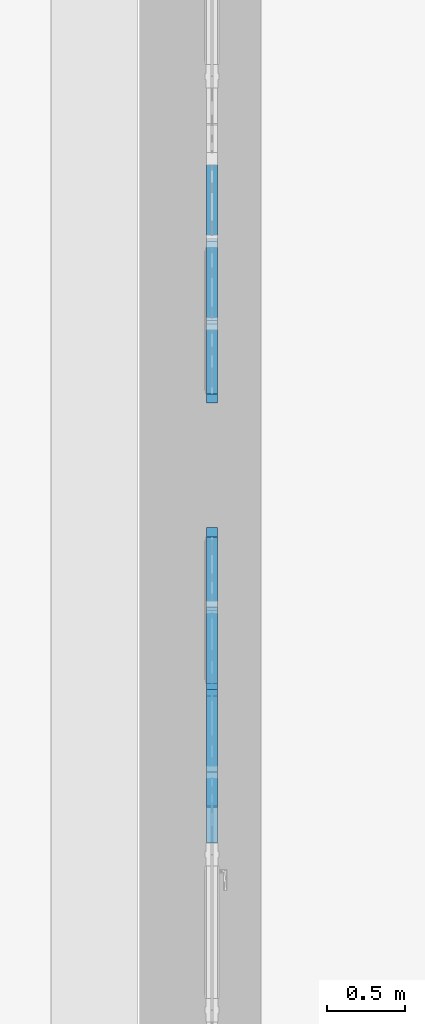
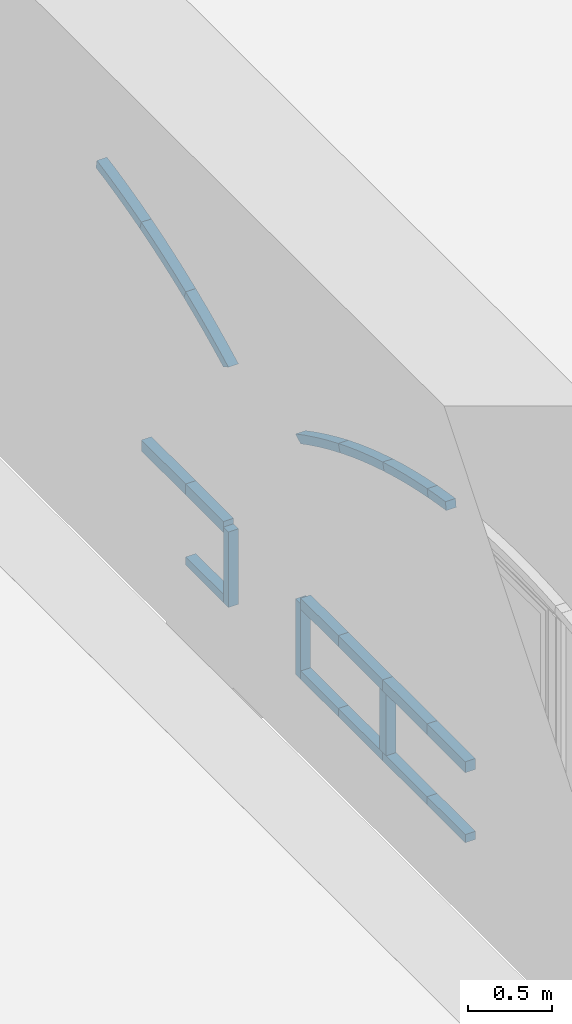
# One storey, part 35 of 88: 21 members, 2 elements without a shape of their own.
"""IFC2X3 building model written with IfcOpenShell, lengths in millimetres."""

from ifc_helpers import new_model, entity, si_unit, converted_unit, derived_unit, direction, frame, frame_2d, origin, place, context, subcontext, project, spatial, polyline, circle_curve, parameter, trimmed, segment, composite_curve, rectangle, outline, extrude, source, transform, mapped, material, type_object, type_shapes, element, aggregate, save


model = new_model("IFC2X3")

# Units and contexts
model_context = context("Model", 3, precision=0.01, world=origin(), true_north=direction((6.123031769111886e-17, 1.0)))
body_context = subcontext(model_context, "Body", "Model", "MODEL_VIEW")
ifc_project = project(units=[si_unit("LENGTHUNIT", "METRE", prefix="MILLI"), si_unit("AREAUNIT", "SQUARE_METRE"), si_unit("VOLUMEUNIT", "CUBIC_METRE"), converted_unit("PLANEANGLEUNIT", "DEGREE", entity("IfcPlaneAngleMeasure", 0.017453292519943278), si_unit("PLANEANGLEUNIT", "RADIAN"), dimensions=[0, 0, 0, 0, 0, 0, 0]), si_unit("MASSUNIT", "GRAM", prefix="KILO"), derived_unit("MASSDENSITYUNIT", [(si_unit("MASSUNIT", "GRAM", prefix="KILO"), 1), (si_unit("LENGTHUNIT", "METRE"), -3)]), derived_unit("IONCONCENTRATIONUNIT", [(si_unit("MASSUNIT", "GRAM", prefix="KILO"), 1), (si_unit("LENGTHUNIT", "METRE"), -3)]), derived_unit("MOMENTOFINERTIAUNIT", [(si_unit("LENGTHUNIT", "METRE"), 4)]), si_unit("TIMEUNIT", "SECOND"), si_unit("FREQUENCYUNIT", "HERTZ"), si_unit("THERMODYNAMICTEMPERATUREUNIT", "DEGREE_CELSIUS"), derived_unit("THERMALTRANSMITTANCEUNIT", [(si_unit("MASSUNIT", "GRAM", prefix="KILO"), 1), (si_unit("THERMODYNAMICTEMPERATUREUNIT", "KELVIN"), -1), (si_unit("TIMEUNIT", "SECOND"), -3)]), derived_unit("THERMALCONDUCTANCEUNIT", [(si_unit("MASSUNIT", "GRAM", prefix="KILO"), 1), (si_unit("THERMODYNAMICTEMPERATUREUNIT", "KELVIN"), -1), (si_unit("TIMEUNIT", "SECOND"), -3), (si_unit("LENGTHUNIT", "METRE"), 1)]), derived_unit("VOLUMETRICFLOWRATEUNIT", [(si_unit("LENGTHUNIT", "METRE", prefix="DECI"), 3), (si_unit("TIMEUNIT", "SECOND"), -1)]), derived_unit("MASSFLOWRATEUNIT", [(si_unit("MASSUNIT", "GRAM", prefix="KILO"), 1), (si_unit("TIMEUNIT", "SECOND"), -1)]), derived_unit("ROTATIONALFREQUENCYUNIT", [(si_unit("TIMEUNIT", "SECOND"), -1)]), si_unit("ELECTRICCURRENTUNIT", "AMPERE"), si_unit("ELECTRICVOLTAGEUNIT", "VOLT"), si_unit("POWERUNIT", "WATT"), si_unit("FORCEUNIT", "NEWTON", prefix="KILO"), si_unit("ILLUMINANCEUNIT", "LUX"), si_unit("LUMINOUSFLUXUNIT", "LUMEN"), si_unit("LUMINOUSINTENSITYUNIT", "CANDELA"), si_unit("ENERGYUNIT", "JOULE"), derived_unit("USERDEFINED", [(si_unit("MASSUNIT", "GRAM", prefix="KILO"), -1), (si_unit("LENGTHUNIT", "METRE"), -2), (si_unit("TIMEUNIT", "SECOND"), 3), (si_unit("LUMINOUSFLUXUNIT", "LUMEN"), 1)]), derived_unit("USERDEFINED", [(si_unit("MASSUNIT", "GRAM", prefix="KILO"), 1), (si_unit("TIMEUNIT", "SECOND"), -3), (si_unit("LENGTHUNIT", "METRE"), 3), (si_unit("ELECTRICCURRENTUNIT", "AMPERE"), -2)]), derived_unit("SOUNDPOWERUNIT", [(si_unit("MASSUNIT", "GRAM", prefix="KILO"), 1), (si_unit("TIMEUNIT", "SECOND"), -3), (si_unit("LENGTHUNIT", "METRE"), 2)]), derived_unit("SOUNDPRESSUREUNIT", [(si_unit("MASSUNIT", "GRAM", prefix="KILO"), 1), (si_unit("LENGTHUNIT", "METRE"), -1), (si_unit("TIMEUNIT", "SECOND"), -2)]), derived_unit("LINEARVELOCITYUNIT", [(si_unit("LENGTHUNIT", "METRE"), 1), (si_unit("TIMEUNIT", "SECOND"), -1)]), si_unit("PRESSUREUNIT", "PASCAL"), derived_unit("USERDEFINED", [(si_unit("MASSUNIT", "GRAM", prefix="KILO"), 1), (si_unit("LENGTHUNIT", "METRE"), -2), (si_unit("TIMEUNIT", "SECOND"), -2)]), derived_unit("LINEARFORCEUNIT", [(si_unit("MASSUNIT", "GRAM", prefix="KILO"), 1), (si_unit("TIMEUNIT", "SECOND"), -2)]), derived_unit("PLANARFORCEUNIT", [(si_unit("MASSUNIT", "GRAM", prefix="KILO"), 1), (si_unit("LENGTHUNIT", "METRE"), -1), (si_unit("TIMEUNIT", "SECOND"), -2)]), derived_unit("SPECIFICHEATCAPACITYUNIT", [(si_unit("THERMODYNAMICTEMPERATUREUNIT", "KELVIN"), -1), (si_unit("LENGTHUNIT", "METRE"), 2), (si_unit("TIMEUNIT", "SECOND"), -2)]), derived_unit("HEATFLUXDENSITYUNIT", [(si_unit("MASSUNIT", "GRAM", prefix="KILO"), 1), (si_unit("TIMEUNIT", "SECOND"), -3)]), derived_unit("HEATINGVALUEUNIT", [(si_unit("LENGTHUNIT", "METRE"), 2), (si_unit("TIMEUNIT", "SECOND"), -2)]), derived_unit("VAPORPERMEABILITYUNIT", [(si_unit("LENGTHUNIT", "METRE"), -1), (si_unit("TIMEUNIT", "SECOND"), 1)]), derived_unit("DYNAMICVISCOSITYUNIT", [(si_unit("MASSUNIT", "GRAM", prefix="KILO"), 1), (si_unit("TIMEUNIT", "SECOND"), -1), (si_unit("LENGTHUNIT", "METRE"), -1)]), derived_unit("THERMALEXPANSIONCOEFFICIENTUNIT", [(si_unit("THERMODYNAMICTEMPERATUREUNIT", "KELVIN"), -1)]), derived_unit("MODULUSOFELASTICITYUNIT", [(si_unit("MASSUNIT", "GRAM", prefix="KILO"), 1), (si_unit("LENGTHUNIT", "METRE"), -1), (si_unit("TIMEUNIT", "SECOND"), -2)]), derived_unit("ISOTHERMALMOISTURECAPACITYUNIT", [(si_unit("MASSUNIT", "GRAM", prefix="KILO"), -1), (si_unit("LENGTHUNIT", "METRE"), 3)]), derived_unit("MOISTUREDIFFUSIVITYUNIT", [(si_unit("TIMEUNIT", "SECOND"), -1), (si_unit("LENGTHUNIT", "METRE"), 2)]), derived_unit("MASSPERLENGTHUNIT", [(si_unit("MASSUNIT", "GRAM", prefix="KILO"), 1), (si_unit("LENGTHUNIT", "METRE"), -1)]), derived_unit("THERMALRESISTANCEUNIT", [(si_unit("MASSUNIT", "GRAM", prefix="KILO"), -1), (si_unit("TIMEUNIT", "SECOND"), 3), (si_unit("THERMODYNAMICTEMPERATUREUNIT", "KELVIN"), 1)]), derived_unit("ACCELERATIONUNIT", [(si_unit("LENGTHUNIT", "METRE"), 1), (si_unit("TIMEUNIT", "SECOND"), -2)]), derived_unit("ANGULARVELOCITYUNIT", [(si_unit("TIMEUNIT", "SECOND"), -1), (si_unit("PLANEANGLEUNIT", "RADIAN"), 1)]), derived_unit("LINEARSTIFFNESSUNIT", [(si_unit("MASSUNIT", "GRAM", prefix="KILO"), 1), (si_unit("TIMEUNIT", "SECOND"), -2)]), derived_unit("WARPINGCONSTANTUNIT", [(si_unit("LENGTHUNIT", "METRE"), 6)]), derived_unit("LINEARMOMENTUNIT", [(si_unit("MASSUNIT", "GRAM", prefix="KILO"), 1), (si_unit("LENGTHUNIT", "METRE"), 1), (si_unit("TIMEUNIT", "SECOND"), -2)]), derived_unit("TORQUEUNIT", [(si_unit("MASSUNIT", "GRAM", prefix="KILO"), 1), (si_unit("LENGTHUNIT", "METRE"), 2), (si_unit("TIMEUNIT", "SECOND"), -2)])], contexts=[model_context])

# Site, building, storey
site_placement = place(None, origin())
site = spatial("IfcSite", under=ifc_project, at=site_placement, Name="Default", CompositionType="ELEMENT")
building_placement = place(site_placement, origin())
building = spatial("IfcBuilding", under=site, at=building_placement, Name="Eesti Rahvusraamatukogu hoone renoveerimise projekteerimistööd", CompositionType="ELEMENT")
storey_placement = place(building_placement, origin())
storey = spatial("IfcBuildingStorey", under=building, at=storey_placement, Name="1. korrus", CompositionType="ELEMENT", Elevation=0.0)

# Curtain wall, members
curtain_wall_type = type_object("IfcCurtainWallType", Name="Curtain Wall:Ak-05", PredefinedType="NOTDEFINED")
curtain_wall_1_placement = place(storey_placement, origin())
curtain_wall_1 = element("IfcCurtainWall", 1, at=curtain_wall_1_placement, inside=storey, type_object=curtain_wall_type, Name="Curtain Wall:Ak-05", ObjectType="Curtain Wall:Ak-05")
ifc_material = material(Name="LUMION_dark steel window frames")
member_type_1 = type_object("IfcMemberType", Name="Rectangular Mullion:NEW 60x70mm", PredefinedType="MULLION", material=ifc_material)
shared_shape_1 = source(origin(), body_context, "Body", "SweptSolid", [
    extrude(outline(composite_curve([segment(polyline([(-44.19959331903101, -278.92780712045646), (15.800406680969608, -278.9278071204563)]), True, "CONTINUOUS"), segment(trimmed(circle_curve(frame_2d((5479.080973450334, -278.9278071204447), x_axis=(-0.9948301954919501, 0.10155236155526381)), 5463.280566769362), [parameter(3.5622212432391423e-13)], [parameter(5.828569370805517)], True, "PARAMETER"), False, "CONTINUOUS"), segment(polyline([(44.04449918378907, 275.8812362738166), (-15.645312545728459, 281.97437796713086)]), True, "CONTINUOUS"), segment(trimmed(circle_curve(frame_2d((5479.080973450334, -278.9278071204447), x_axis=(-0.9948301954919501, 0.10155236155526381)), 5523.280566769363), [parameter(3.5622212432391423e-13)], [parameter(5.828569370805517)], True, "PARAMETER"), True, "CONTINUOUS")], self_intersect=False)), frame((-44.19959331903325, -35.0, -278.9278071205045), z_axis=(0.0, 1.0, 0.0), x_axis=(-0.9948301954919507, 0.0, 0.10155236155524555)), (0.0, 0.0, 1.0), 69.99999999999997),
])
type_shapes(member_type_1, [shared_shape_1])
member_1_placement = place(curtain_wall_1_placement, frame((-42905.0, 37335.0, 1939.3047106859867), z_axis=(0.0, -0.9256428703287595, -0.3783983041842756), x_axis=(0.0, -0.3783983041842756, 0.9256428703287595)))
member_1 = element("IfcMember", 2, at=member_1_placement, type_object=member_type_1, material=ifc_material, Name="Rectangular Mullion:NEW 60x70mm", ObjectType="Rectangular Mullion:NEW 60x70mm", context=body_context, shape_type="MappedRepresentation", body=[
    mapped(shared_shape_1, transform((0.0, 0.0, 0.0), scale=1.0)),
])
member_type_2 = type_object("IfcMemberType", Name="Rectangular Mullion:NEW 60x70mm", PredefinedType="MULLION", material=ifc_material)
shared_shape_2 = source(origin(), body_context, "Body", "SweptSolid", [
    extrude(outline(composite_curve([segment(polyline([(-43.38278695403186, -270.80676601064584), (16.61721304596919, -270.80676601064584)]), True, "CONTINUOUS"), segment(trimmed(circle_curve(frame_2d((5479.897779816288, -270.80676601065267), x_axis=(-0.9951275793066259, 0.09859564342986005)), 5463.280566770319), [parameter(3.5622212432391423e-13)], [parameter(5.658307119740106)], True, "PARAMETER"), False, "CONTINUOUS"), segment(polyline([(43.23661433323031, 267.8488967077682), (-16.471040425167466, 273.7646353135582)]), True, "CONTINUOUS"), segment(trimmed(circle_curve(frame_2d((5479.897779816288, -270.80676601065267), x_axis=(-0.9951275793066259, 0.09859564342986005)), 5523.280566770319), [parameter(3.5622212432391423e-13)], [parameter(5.658307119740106)], True, "PARAMETER"), True, "CONTINUOUS")], self_intersect=False)), frame((-43.382786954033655, -35.0, -270.8067660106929), z_axis=(0.0, 1.0, 0.0), x_axis=(-0.9951275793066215, 0.0, 0.09859564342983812)), (0.0, 0.0, 1.0), 69.99999999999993),
])
type_shapes(member_type_2, [shared_shape_2])
member_2_placement = place(curtain_wall_1_placement, frame((-42905.0, 37865.0, 2125.1180799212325), z_axis=(0.0, -0.959284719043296, -0.28244083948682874), x_axis=(0.0, -0.28244083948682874, 0.959284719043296)))
member_2 = element("IfcMember", 3, at=member_2_placement, type_object=member_type_2, material=ifc_material, Name="Rectangular Mullion:NEW 60x70mm", ObjectType="Rectangular Mullion:NEW 60x70mm", context=body_context, shape_type="MappedRepresentation", body=[
    mapped(shared_shape_2, transform((0.0, 0.0, 0.0), scale=1.0)),
])

curtain_wall_2_placement = place(storey_placement, origin())
curtain_wall_2 = element("IfcCurtainWall", 4, at=curtain_wall_2_placement, inside=storey, type_object=curtain_wall_type, Name="Curtain Wall:Ak-05", ObjectType="Curtain Wall:Ak-05")
member_type_3 = type_object("IfcMemberType", Name="Rectangular Mullion:NEW 60x70mm", PredefinedType="MULLION", material=ifc_material)
shared_shape_3 = source(origin(), body_context, "Body", "SweptSolid", [
    extrude(outline(composite_curve([segment(trimmed(circle_curve(frame_2d((4549.812785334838, 3066.2072493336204), x_axis=(-0.8006634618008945, -0.5991143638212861)), 5523.280566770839), [parameter(354.15250498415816)], [parameter(359.99999999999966)], True, "PARAMETER"), True, "CONTINUOUS"), segment(polyline([(127.52384624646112, -242.86947363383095), (175.56365395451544, -206.92261180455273)]), True, "CONTINUOUS"), segment(trimmed(circle_curve(frame_2d((4549.812785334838, 3066.2072493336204), x_axis=(-0.8006634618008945, -0.5991143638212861)), 5463.280566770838), [parameter(354.53073311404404)], [parameter(359.99999999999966)], True, "PARAMETER"), False, "CONTINUOUS"), segment(polyline([(-116.49037438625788, 224.89604271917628), (-186.59712581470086, 224.89604271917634)]), True, "CONTINUOUS")], self_intersect=False)), frame((-43.402905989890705, -35.0, -270.85808154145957), z_axis=(0.0, -1.0, 0.0), x_axis=(-0.800663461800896, 0.0, 0.5991143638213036)), (0.0, 0.0, -1.0), 69.99999999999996),
])
type_shapes(member_type_3, [shared_shape_3])
member_3_placement = place(curtain_wall_2_placement, frame((-42905.0, 35515.0, 1939.3047106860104), z_axis=(0.0, -0.9256428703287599, 0.3783983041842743), x_axis=(0.0, 0.3783983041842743, 0.9256428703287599)))
member_3 = element("IfcMember", 5, at=member_3_placement, type_object=member_type_3, material=ifc_material, Name="Rectangular Mullion:NEW 60x70mm", ObjectType="Rectangular Mullion:NEW 60x70mm", context=body_context, shape_type="MappedRepresentation", body=[
    mapped(shared_shape_3, transform((0.0, 0.0, 0.0), scale=1.0)),
])
member_type_4 = type_object("IfcMemberType", Name="Rectangular Mullion:NEW 60x70mm", PredefinedType="MULLION", material=ifc_material)
shared_shape_4 = source(origin(), body_context, "Body", "SweptSolid", [
    extrude(outline(composite_curve([segment(polyline([(-44.19959331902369, -278.9278071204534), (15.8004066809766, -278.92780712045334)]), True, "CONTINUOUS"), segment(trimmed(circle_curve(frame_2d((5479.0809734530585, -278.9278071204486), x_axis=(-0.9948301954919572, 0.10155236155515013)), 5463.28056677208), [parameter(3.5622212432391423e-13)], [parameter(5.828569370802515)], True, "PARAMETER"), False, "CONTINUOUS"), segment(polyline([(44.04449918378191, 275.88123627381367), (-15.645312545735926, 281.97437796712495)]), True, "CONTINUOUS"), segment(trimmed(circle_curve(frame_2d((5479.0809734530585, -278.9278071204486), x_axis=(-0.9948301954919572, 0.10155236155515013)), 5523.28056677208), [parameter(3.5622212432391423e-13)], [parameter(5.828569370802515)], True, "PARAMETER"), True, "CONTINUOUS")], self_intersect=False)), frame((-44.199593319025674, -35.0, -278.9278071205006), z_axis=(0.0, 1.0, 0.0), x_axis=(-0.994830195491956, 0.0, 0.1015523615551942)), (0.0, 0.0, 1.0), 70.0),
])
type_shapes(member_type_4, [shared_shape_4])
member_4_placement = place(curtain_wall_2_placement, frame((-42905.0, 34985.0, 2125.118079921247), z_axis=(0.0, -0.9592847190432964, 0.28244083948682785), x_axis=(0.0, 0.28244083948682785, 0.9592847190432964)))
member_4 = element("IfcMember", 6, at=member_4_placement, type_object=member_type_4, material=ifc_material, Name="Rectangular Mullion:NEW 60x70mm", ObjectType="Rectangular Mullion:NEW 60x70mm", context=body_context, shape_type="MappedRepresentation", body=[
    mapped(shared_shape_4, transform((0.0, 0.0, 0.0), scale=1.0)),
])
member_type_5 = type_object("IfcMemberType", Name="Rectangular Mullion:NEW 60x70mm", PredefinedType="MULLION", material=ifc_material)
shared_shape_5 = source(origin(), body_context, "Body", "SweptSolid", [
    extrude(outline(composite_curve([segment(polyline([(-43.38278695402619, -270.80676601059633), (16.61721304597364, -270.8067660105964)]), True, "CONTINUOUS"), segment(trimmed(circle_curve(frame_2d((5479.897779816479, -270.8067660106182), x_axis=(-0.9951275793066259, 0.0985956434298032)), 5463.280566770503), [parameter(3.5622212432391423e-13)], [parameter(5.658307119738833)], True, "PARAMETER"), False, "CONTINUOUS"), segment(polyline([(43.23661433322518, 267.848896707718), (-16.471040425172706, 273.76463531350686)]), True, "CONTINUOUS"), segment(trimmed(circle_curve(frame_2d((5479.897779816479, -270.8067660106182), x_axis=(-0.9951275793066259, 0.0985956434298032)), 5523.280566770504), [parameter(3.5622212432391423e-13)], [parameter(5.658307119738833)], True, "PARAMETER"), True, "CONTINUOUS")], self_intersect=False)), frame((-43.38278695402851, -35.0, -270.8067660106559), z_axis=(0.0, 1.0, 0.0), x_axis=(-0.9951275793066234, 0.0, 0.09859564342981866)), (0.0, 0.0, 1.0), 69.99999999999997),
])
type_shapes(member_type_5, [shared_shape_5])
member_5_placement = place(curtain_wall_2_placement, frame((-42905.0, 34455.0, 2253.111256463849), z_axis=(0.0, -0.9824581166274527, 0.18648337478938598), x_axis=(0.0, 0.18648337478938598, 0.9824581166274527)))
member_5 = element("IfcMember", 7, at=member_5_placement, type_object=member_type_5, material=ifc_material, Name="Rectangular Mullion:NEW 60x70mm", ObjectType="Rectangular Mullion:NEW 60x70mm", context=body_context, shape_type="MappedRepresentation", body=[
    mapped(shared_shape_5, transform((0.0, 0.0, 0.0), scale=1.0)),
])

# Member
member_type_6 = type_object("IfcMemberType", Name="Rectangular Mullion:NEW 60x70mm", PredefinedType="MULLION", material=ifc_material)
shared_shape_6 = source(origin(), body_context, "Body", "SweptSolid", [
    extrude(outline(composite_curve([segment(polyline([(-43.402905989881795, -270.8580815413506), (16.59709401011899, -270.85808154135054)]), True, "CONTINUOUS"), segment(trimmed(circle_curve(frame_2d((5479.877660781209, -270.8580815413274), x_axis=(-0.9947965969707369, 0.10188096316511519)), 5463.280566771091), [parameter(0.37822812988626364)], [parameter(5.847495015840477)], True, "PARAMETER"), False, "CONTINUOUS"), segment(polyline([(41.46886313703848, 249.85710065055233), (-14.66305115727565, 291.85906243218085)]), True, "CONTINUOUS"), segment(trimmed(circle_curve(frame_2d((5479.877660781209, -270.8580815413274), x_axis=(-0.9947965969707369, 0.10188096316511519)), 5523.280566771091), [parameter(3.5622212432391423e-13)], [parameter(5.847495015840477)], True, "PARAMETER"), True, "CONTINUOUS")], self_intersect=False)), frame((-44.32163578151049, -35.0, -288.84651632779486), z_axis=(0.0, 1.0, 0.0), x_axis=(-0.9947965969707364, 0.0, 0.10188096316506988)), (0.0, 0.0, 1.0), 69.99999999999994),
])
type_shapes(member_type_6, [shared_shape_6])
member_6_placement = place(curtain_wall_1_placement, frame((-42905.0, 36825.0, 1699.7706559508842), z_axis=(0.0, -0.882274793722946, -0.4707347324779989), x_axis=(0.0, -0.4707347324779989, 0.882274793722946)))
member_6 = element("IfcMember", 8, at=member_6_placement, type_object=member_type_6, material=ifc_material, Name="Rectangular Mullion:NEW 60x70mm", ObjectType="Rectangular Mullion:NEW 60x70mm", context=body_context, shape_type="MappedRepresentation", body=[
    mapped(shared_shape_6, transform((0.0, 0.0, 0.0), scale=1.0)),
])

member_type_7 = type_object("IfcMemberType", Name="Rectangular Mullion:NEW 80x70mm", PredefinedType="MULLION", material=ifc_material)
shared_shape_7 = source(origin(), body_context, "Body", "SweptSolid", [
    extrude(rectangle(XDim=80.0, YDim=70.0, at=frame_2d((0.0, -3.552713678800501e-15), x_axis=(1.0, 0.0))), frame((0.0, 0.0, -450.0), z_axis=(0.0, 0.0, 1.0), x_axis=(-1.0, 0.0, 0.0)), (0.0, 0.0, 1.0), 449.9999999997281),
])
type_shapes(member_type_7, [shared_shape_7])
member_7_placement = place(curtain_wall_1_placement, frame((-42905.0, 36885.0, 500.0), z_axis=(0.0, -1.0, 0.0), x_axis=(0.0, 0.0, 1.0)))
member_7 = element("IfcMember", 9, at=member_7_placement, type_object=member_type_7, material=ifc_material, Name="Rectangular Mullion:NEW 80x70mm", ObjectType="Rectangular Mullion:NEW 80x70mm", context=body_context, shape_type="MappedRepresentation", body=[
    mapped(shared_shape_7, transform((0.0, 0.0, 0.0), scale=1.0)),
])

member_type_8 = type_object("IfcMemberType", Name="Rectangular Mullion:NEW 80x70mm", PredefinedType="MULLION", material=ifc_material)
shared_shape_8 = source(origin(), body_context, "Body", "SweptSolid", [
    extrude(rectangle(XDim=80.0, YDim=70.0, at=frame_2d((0.0, -3.552713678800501e-15), x_axis=(1.0, 0.0))), frame((0.0, 0.0, -530.0), z_axis=(0.0, 0.0, 1.0), x_axis=(-1.0, 0.0, 0.0)), (0.0, 0.0, 1.0), 530.0000000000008),
])
type_shapes(member_type_8, [shared_shape_8])
member_8_placement = place(curtain_wall_1_placement, frame((-42905.0, 37335.0, 500.0), z_axis=(0.0, -1.0, 0.0), x_axis=(0.0, 0.0, 1.0)))
member_8 = element("IfcMember", 10, at=member_8_placement, type_object=member_type_8, material=ifc_material, Name="Rectangular Mullion:NEW 80x70mm", ObjectType="Rectangular Mullion:NEW 80x70mm", context=body_context, shape_type="MappedRepresentation", body=[
    mapped(shared_shape_8, transform((0.0, 0.0, 0.0), scale=1.0)),
])

member_9_placement = place(curtain_wall_2_placement, frame((-42905.0, 34985.0, 500.0), z_axis=(0.0, -1.0, 0.0), x_axis=(0.0, 0.0, 1.0)))
member_9 = element("IfcMember", 11, at=member_9_placement, type_object=member_type_8, material=ifc_material, Name="Rectangular Mullion:NEW 80x70mm", ObjectType="Rectangular Mullion:NEW 80x70mm", context=body_context, shape_type="MappedRepresentation", body=[
    mapped(shared_shape_8, transform((0.0, 0.0, 0.0), scale=1.0)),
])

member_10_placement = place(curtain_wall_2_placement, frame((-42905.0, 34455.0, 500.0), z_axis=(0.0, -1.0, 0.0), x_axis=(0.0, 0.0, 1.0)))
member_10 = element("IfcMember", 12, at=member_10_placement, type_object=member_type_8, material=ifc_material, Name="Rectangular Mullion:NEW 80x70mm", ObjectType="Rectangular Mullion:NEW 80x70mm", context=body_context, shape_type="MappedRepresentation", body=[
    mapped(shared_shape_8, transform((0.0, 0.0, 0.0), scale=1.0)),
])

member_type_9 = type_object("IfcMemberType", Name="Rectangular Mullion:NEW 80x70mm", PredefinedType="MULLION", material=ifc_material)
shared_shape_9 = source(origin(), body_context, "Body", "SweptSolid", [
    extrude(rectangle(XDim=80.0, YDim=70.0, at=frame_2d((0.0, -3.552713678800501e-15), x_axis=(1.0, 0.0))), frame((0.0, 0.0, -455.0), z_axis=(0.0, 0.0, 1.0), x_axis=(-1.0, 0.0, 0.0)), (0.0, 0.0, 1.0), 455.0000000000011),
])
type_shapes(member_type_9, [shared_shape_9])
member_11_placement = place(curtain_wall_2_placement, frame((-42905.0, 34000.0, 500.0), z_axis=(0.0, -1.0, 0.0), x_axis=(0.0, 0.0, 1.0)))
member_11 = element("IfcMember", 13, at=member_11_placement, type_object=member_type_9, material=ifc_material, Name="Rectangular Mullion:NEW 80x70mm", ObjectType="Rectangular Mullion:NEW 80x70mm", context=body_context, shape_type="MappedRepresentation", body=[
    mapped(shared_shape_9, transform((0.0, 0.0, 0.0), scale=1.0)),
])

member_type_10 = type_object("IfcMemberType", Name="Rectangular Mullion:NEW 80x70mm", PredefinedType="MULLION", material=ifc_material)
shared_shape_10 = source(origin(), body_context, "Body", "SweptSolid", [
    extrude(rectangle(XDim=80.0, YDim=70.0, at=frame_2d((0.0, -3.552713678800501e-15), x_axis=(1.0, 0.0))), frame((0.0, 0.0, -450.0), z_axis=(0.0, 0.0, 1.0), x_axis=(-1.0, 0.0, 0.0)), (0.0, 0.0, 1.0), 449.9999999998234),
])
type_shapes(member_type_10, [shared_shape_10])
member_12_placement = place(curtain_wall_2_placement, frame((-42905.0, 35515.0, 500.0), z_axis=(0.0, -1.0, 0.0), x_axis=(0.0, 0.0, 1.0)))
member_12 = element("IfcMember", 14, at=member_12_placement, type_object=member_type_10, material=ifc_material, Name="Rectangular Mullion:NEW 80x70mm", ObjectType="Rectangular Mullion:NEW 80x70mm", context=body_context, shape_type="MappedRepresentation", body=[
    mapped(shared_shape_10, transform((0.0, 0.0, 0.0), scale=1.0)),
])

member_type_11 = type_object("IfcMemberType", Name="Rectangular Mullion:NEW 80x70mm", PredefinedType="MULLION", material=ifc_material)
shared_shape_11 = source(origin(), body_context, "Body", "SweptSolid", [
    extrude(rectangle(XDim=80.0, YDim=70.0, at=frame_2d((0.0, 3.552713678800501e-15), x_axis=(1.0, 0.0))), frame((0.0, 0.0, -450.0), z_axis=(0.0, 0.0, 1.0), x_axis=(-1.0, 0.0, 0.0)), (0.0, 0.0, 1.0), 450.00000000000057),
])
type_shapes(member_type_11, [shared_shape_11])
member_13_placement = place(curtain_wall_2_placement, frame((-42905.0, 34985.0, 10.0), z_axis=(0.0, 0.0, -1.0), x_axis=(0.0, -1.0, 0.0)))
member_13 = element("IfcMember", 15, at=member_13_placement, type_object=member_type_11, material=ifc_material, Name="Rectangular Mullion:NEW 80x70mm", ObjectType="Rectangular Mullion:NEW 80x70mm", context=body_context, shape_type="MappedRepresentation", body=[
    mapped(shared_shape_11, transform((0.0, 0.0, 0.0), scale=1.0)),
])

member_type_12 = type_object("IfcMemberType", Name="Rectangular Mullion:NEW 60x70mm", PredefinedType="MULLION", material=ifc_material)
shared_shape_12 = source(origin(), body_context, "Body", "SweptSolid", [
    extrude(rectangle(XDim=60.0, YDim=70.0, at=frame_2d((0.0, 3.552713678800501e-15), x_axis=(1.0, 0.0))), frame((-30.0, 0.0, -550.0), z_axis=(0.0, 0.0, 1.0), x_axis=(-1.0, 0.0, 0.0)), (0.0, 0.0, 1.0), 550.0000000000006),
])
type_shapes(member_type_12, [shared_shape_12])
member_14_placement = place(curtain_wall_1_placement, frame((-42905.0, 36825.0, -50.0), z_axis=(0.0, 0.0, -1.0), x_axis=(0.0, -1.0, 0.0)))
member_14 = element("IfcMember", 16, at=member_14_placement, type_object=member_type_12, material=ifc_material, Name="Rectangular Mullion:NEW 60x70mm", ObjectType="Rectangular Mullion:NEW 60x70mm", context=body_context, shape_type="MappedRepresentation", body=[
    mapped(shared_shape_12, transform((0.0, 0.0, 0.0), scale=1.0)),
])

member_type_13 = type_object("IfcMemberType", Name="Rectangular Mullion:NEW 60x70mm", PredefinedType="MULLION", material=ifc_material)
shared_shape_13 = source(origin(), body_context, "Body", "SweptSolid", [
    extrude(rectangle(XDim=60.0, YDim=70.0, at=frame_2d((0.0, 3.552713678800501e-15), x_axis=(1.0, 0.0))), frame((-30.0, 0.0, -550.0), z_axis=(0.0, 0.0, 1.0), x_axis=(-1.0, 0.0, 0.0)), (0.0, 0.0, 1.0), 550.0000000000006),
])
type_shapes(member_type_13, [shared_shape_13])
member_15_placement = place(curtain_wall_2_placement, frame((-42905.0, 36025.0, 500.0), z_axis=(0.0, 0.0, 1.0), x_axis=(0.0, 1.0, 0.0)))
member_15 = element("IfcMember", 17, at=member_15_placement, type_object=member_type_13, material=ifc_material, Name="Rectangular Mullion:NEW 60x70mm", ObjectType="Rectangular Mullion:NEW 60x70mm", context=body_context, shape_type="MappedRepresentation", body=[
    mapped(shared_shape_13, transform((0.0, 0.0, 0.0), scale=1.0)),
])

member_type_14 = type_object("IfcMemberType", Name="Rectangular Mullion:NEW 60x70mm", PredefinedType="MULLION", material=ifc_material)
shared_shape_14 = source(origin(), body_context, "Body", "SweptSolid", [
    extrude(rectangle(XDim=60.0, YDim=70.0, at=frame_2d((0.0, 3.552713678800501e-15), x_axis=(1.0, 0.0))), frame((-30.0, 0.0, -450.0), z_axis=(0.0, 0.0, 1.0), x_axis=(-1.0, 0.0, 0.0)), (0.0, 0.0, 1.0), 449.9999999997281),
])
type_shapes(member_type_14, [shared_shape_14])
member_16_placement = place(curtain_wall_1_placement, frame((-42905.0, 37335.0, -50.0), z_axis=(0.0, 1.0, 0.0), x_axis=(0.0, 0.0, -1.0)))
member_16 = element("IfcMember", 18, at=member_16_placement, type_object=member_type_14, material=ifc_material, Name="Rectangular Mullion:NEW 60x70mm", ObjectType="Rectangular Mullion:NEW 60x70mm", context=body_context, shape_type="MappedRepresentation", body=[
    mapped(shared_shape_14, transform((0.0, 0.0, 0.0), scale=1.0)),
])

aggregate(curtain_wall_1, [member_1, member_2, member_6, member_7, member_8, member_14, member_16])

member_type_15 = type_object("IfcMemberType", Name="Rectangular Mullion:NEW 60x70mm", PredefinedType="MULLION", material=ifc_material)
shared_shape_15 = source(origin(), body_context, "Body", "SweptSolid", [
    extrude(rectangle(XDim=60.0, YDim=70.0, at=frame_2d((0.0, 3.552713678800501e-15), x_axis=(1.0, 0.0))), frame((-30.0, 0.0, -530.0), z_axis=(0.0, 0.0, 1.0), x_axis=(-1.0, 0.0, 0.0)), (0.0, 0.0, 1.0), 530.0000000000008),
])
type_shapes(member_type_15, [shared_shape_15])
member_17_placement = place(curtain_wall_2_placement, frame((-42905.0, 34985.0, -50.0), z_axis=(0.0, 1.0, 0.0), x_axis=(0.0, 0.0, -1.0)))
member_17 = element("IfcMember", 19, at=member_17_placement, type_object=member_type_15, material=ifc_material, Name="Rectangular Mullion:NEW 60x70mm", ObjectType="Rectangular Mullion:NEW 60x70mm", context=body_context, shape_type="MappedRepresentation", body=[
    mapped(shared_shape_15, transform((0.0, 0.0, 0.0), scale=1.0)),
])

member_type_16 = type_object("IfcMemberType", Name="Rectangular Mullion:NEW 60x70mm", PredefinedType="MULLION", material=ifc_material)
shared_shape_16 = source(origin(), body_context, "Body", "SweptSolid", [
    extrude(rectangle(XDim=60.0, YDim=70.0, at=frame_2d((0.0, 3.552713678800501e-15), x_axis=(1.0, 0.0))), frame((-30.0, 0.0, -530.0), z_axis=(0.0, 0.0, 1.0), x_axis=(-1.0, 0.0, 0.0)), (0.0, 0.0, 1.0), 530.0000000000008),
])
type_shapes(member_type_16, [shared_shape_16])
member_18_placement = place(curtain_wall_2_placement, frame((-42905.0, 35515.0, -50.0), z_axis=(0.0, 1.0, 0.0), x_axis=(0.0, 0.0, -1.0)))
member_18 = element("IfcMember", 20, at=member_18_placement, type_object=member_type_16, material=ifc_material, Name="Rectangular Mullion:NEW 60x70mm", ObjectType="Rectangular Mullion:NEW 60x70mm", context=body_context, shape_type="MappedRepresentation", body=[
    mapped(shared_shape_16, transform((0.0, 0.0, 0.0), scale=1.0)),
])

member_type_17 = type_object("IfcMemberType", Name="Rectangular Mullion:NEW 60x70mm", PredefinedType="MULLION", material=ifc_material)
shared_shape_17 = source(origin(), body_context, "Body", "SweptSolid", [
    extrude(rectangle(XDim=60.0, YDim=70.0, at=frame_2d((0.0, 3.552713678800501e-15), x_axis=(1.0, 0.0))), frame((-30.0, 0.0, -455.0), z_axis=(0.0, 0.0, 1.0), x_axis=(-1.0, 0.0, 0.0)), (0.0, 0.0, 1.0), 455.0000000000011),
])
type_shapes(member_type_17, [shared_shape_17])
member_19_placement = place(curtain_wall_2_placement, frame((-42905.0, 34455.0, -50.0), z_axis=(0.0, 1.0, 0.0), x_axis=(0.0, 0.0, -1.0)))
member_19 = element("IfcMember", 21, at=member_19_placement, type_object=member_type_17, material=ifc_material, Name="Rectangular Mullion:NEW 60x70mm", ObjectType="Rectangular Mullion:NEW 60x70mm", context=body_context, shape_type="MappedRepresentation", body=[
    mapped(shared_shape_17, transform((0.0, 0.0, 0.0), scale=1.0)),
])

member_type_18 = type_object("IfcMemberType", Name="Rectangular Mullion:NEW 60x70mm", PredefinedType="MULLION", material=ifc_material)
shared_shape_18 = source(origin(), body_context, "Body", "SweptSolid", [
    extrude(rectangle(XDim=60.0, YDim=70.0, at=frame_2d((0.0, 3.552713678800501e-15), x_axis=(1.0, 0.0))), frame((-30.0, 0.0, -450.0), z_axis=(0.0, 0.0, 1.0), x_axis=(-1.0, 0.0, 0.0)), (0.0, 0.0, 1.0), 449.9999999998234),
])
type_shapes(member_type_18, [shared_shape_18])
member_20_placement = place(curtain_wall_2_placement, frame((-42905.0, 35965.0, -50.0), z_axis=(0.0, 1.0, 0.0), x_axis=(0.0, 0.0, -1.0)))
member_20 = element("IfcMember", 22, at=member_20_placement, type_object=member_type_18, material=ifc_material, Name="Rectangular Mullion:NEW 60x70mm", ObjectType="Rectangular Mullion:NEW 60x70mm", context=body_context, shape_type="MappedRepresentation", body=[
    mapped(shared_shape_18, transform((0.0, 0.0, 0.0), scale=1.0)),
])

member_type_19 = type_object("IfcMemberType", Name="Rectangular Mullion:NEW 60x70mm", PredefinedType="MULLION", material=ifc_material)
shared_shape_19 = source(origin(), body_context, "Body", "SweptSolid", [
    extrude(outline(composite_curve([segment(polyline([(-32.202468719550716, -109.97239538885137), (27.79753128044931, -109.97239538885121)]), True, "CONTINUOUS"), segment(trimmed(circle_curve(frame_2d((5491.078098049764, -109.97239538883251), x_axis=(-0.9991981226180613, 0.04003887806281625)), 5463.280566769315), [parameter(3.5622212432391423e-13)], [parameter(2.294672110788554)], True, "PARAMETER"), False, "CONTINUOUS"), segment(polyline([(32.17841239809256, 108.77122904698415), (-27.773474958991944, 111.17356173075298)]), True, "CONTINUOUS"), segment(trimmed(circle_curve(frame_2d((5491.078098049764, -109.97239538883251), x_axis=(-0.9991981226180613, 0.04003887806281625)), 5523.280566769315), [parameter(3.5622212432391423e-13)], [parameter(2.294672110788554)], True, "PARAMETER"), True, "CONTINUOUS")], self_intersect=False)), frame((-32.202468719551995, -35.0, -109.97239538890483), z_axis=(0.0, 1.0, 0.0), x_axis=(-0.9991981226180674, 0.0, 0.04003887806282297)), (0.0, 0.0, 1.0), 69.99999999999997),
])
type_shapes(member_type_19, [shared_shape_19])
member_21_placement = place(curtain_wall_2_placement, frame((-42905.0, 34236.90742576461, 2290.0), z_axis=(0.0, -0.9891368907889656, 0.14699731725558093), x_axis=(0.0, 0.14699731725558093, 0.9891368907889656)))
member_21 = element("IfcMember", 23, at=member_21_placement, type_object=member_type_19, material=ifc_material, Name="Rectangular Mullion:NEW 60x70mm", ObjectType="Rectangular Mullion:NEW 60x70mm", context=body_context, shape_type="MappedRepresentation", body=[
    mapped(shared_shape_19, transform((0.0, 0.0, 0.0), scale=1.0)),
])

aggregate(curtain_wall_2, [member_3, member_4, member_5, member_9, member_10, member_11, member_12, member_13, member_15, member_18, member_17, member_19, member_20, member_21])

save(model, "model.ifc")
